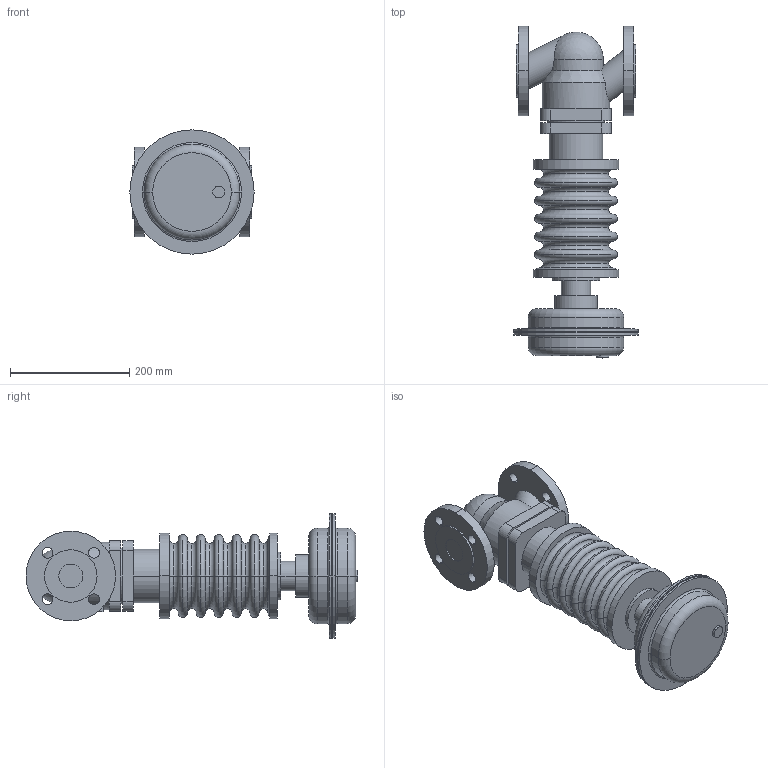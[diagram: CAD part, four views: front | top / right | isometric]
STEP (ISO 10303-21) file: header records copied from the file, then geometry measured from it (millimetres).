
FILE_DESCRIPTION(('OneSpaceDesigner STEP Export'),'2;1');
FILE_NAME('c000000561.stp','2006-08-30T 9:24:49',(''),(''),'OneSpace Designer STEP processor for AP203 (Solid Model)','OneSpace Designer 13.20A 18-Aug-2005 (C) CoCreate Software GmbH','');
FILE_SCHEMA(('CONFIG_CONTROL_DESIGN'));
Length unit declared in the file: millimetre
Products named in the file (1): 2
Bounding box: 208 x 556 x 208 mm (x, y, z)
Volume: 6858819.1 mm3; surface area: 450301.7 mm2
Topology: 1 solids, 1 shells, 176 faces, 412 edges, 261 vertices
Faces by surface type: cylinder 70, torus 54, plane 48, cone 2, sphere 2
Entity records: 4588 total; most frequent: CARTESIAN_POINT 928, ORIENTED_EDGE 820, DIRECTION 666, EDGE_CURVE 410, AXIS2_PLACEMENT_3D 269, VERTEX_POINT 261, EDGE_LOOP 217, FACE_OUTER_BOUND 176
